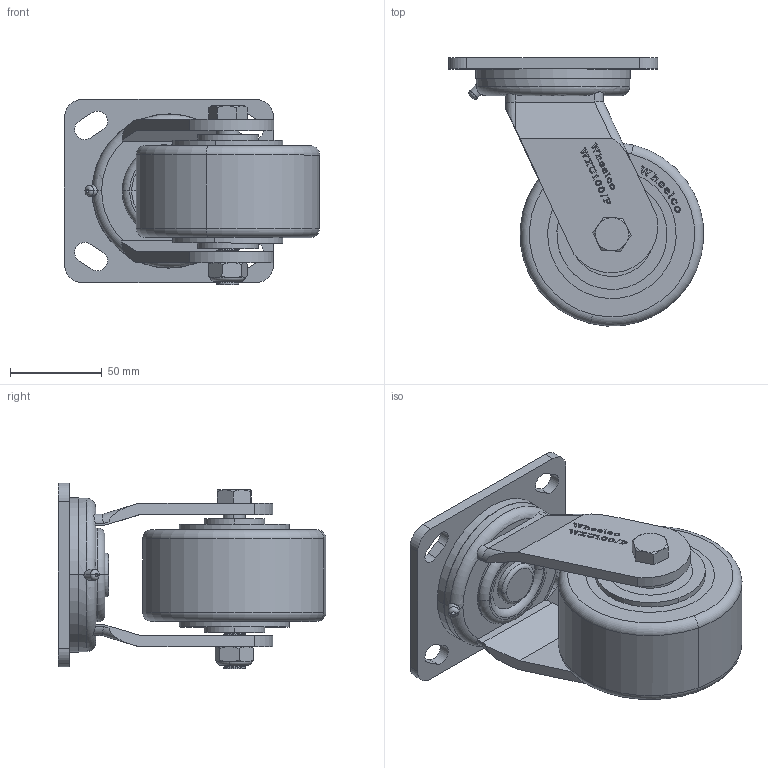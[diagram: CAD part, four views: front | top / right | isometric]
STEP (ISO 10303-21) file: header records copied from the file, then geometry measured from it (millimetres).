
FILE_DESCRIPTION (( 'STEP AP214' ), '1' );
FILE_NAME ('WXU100-P.step', '2024-01-17T23:04:21', ( '' ), ( '' ), 'SwSTEP 2.0', 'SolidWorks 2022', '' );
FILE_SCHEMA (( 'AUTOMOTIVE_DESIGN' ));
Length unit declared in the file: millimetre
Products named in the file (8): M12NYLOC; SP20-12-62; WX100-P; SP33X20X3; 100X114 PLATE; WXU100-P; M12 X 90; MXU100
Assembly tree (8 placements, depth 2):
  WXU100-P
    WX100-P
    SP20-12-62
    M12 X 90
    M12NYLOC
    MXU100
    100X114 PLATE
    SP33X20X3  x2
Bounding box: 138.94 x 145.9 x 101.07 mm (x, y, z)
Volume: 625012.1 mm3; surface area: 112795.2 mm2
Topology: 8 solids, 8 shells, 651 faces, 1736 edges, 1146 vertices
Faces by surface type: plane 345, bspline 148, cylinder 118, torus 24, cone 16
Entity records: 33822 total; most frequent: CARTESIAN_POINT 17488, ORIENTED_EDGE 3448, DIRECTION 2497, EDGE_CURVE 1724, VERTEX_POINT 1138, LINE 1063, VECTOR 1063, AXIS2_PLACEMENT_3D 717
